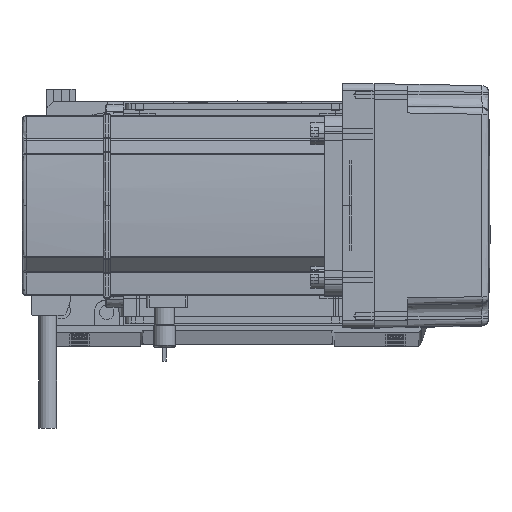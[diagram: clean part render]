
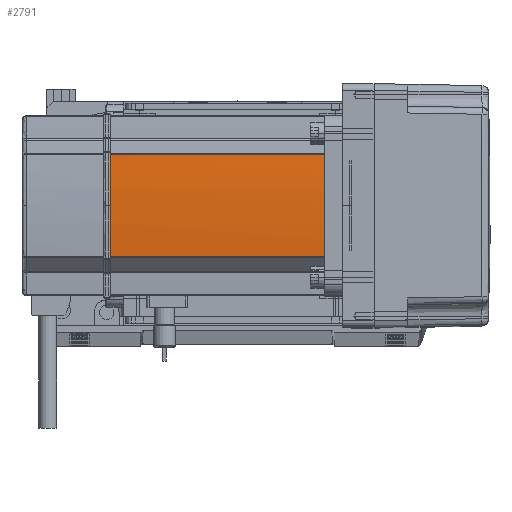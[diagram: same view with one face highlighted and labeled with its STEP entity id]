
A CAD part, top view. The second image highlights one B-rep face of the part: STEP entity #2791.
In plain terms, the highlighted cylindrical face has radius 270 mm (diameter 540 mm), a partial arc.
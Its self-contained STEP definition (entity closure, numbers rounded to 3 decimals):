
#305 = CYLINDRICAL_SURFACE ( 'NONE', #14298, 270. ) ;
#1179 = EDGE_CURVE ( 'NONE', #19028, #32269, #24031, .T. ) ;
#1616 = CARTESIAN_POINT ( 'NONE',  ( -39.042, -22.724, 134. ) ) ;
#2791 = ADVANCED_FACE ( 'NONE', ( #5198 ), #305, .T. ) ;
#3895 = CARTESIAN_POINT ( 'NONE',  ( -39.042, 22.724, 39. ) ) ;
#4646 = ORIENTED_EDGE ( 'NONE', *, *, #8878, .T. ) ;
#5198 = FACE_OUTER_BOUND ( 'NONE', #16419, .T. ) ;
#6934 = VECTOR ( 'NONE', #49134, 1000. ) ;
#8326 = CARTESIAN_POINT ( 'NONE',  ( 230., 0., 39. ) ) ;
#8878 = EDGE_CURVE ( 'NONE', #32269, #55584, #23179, .T. ) ;
#9248 = DIRECTION ( 'NONE',  ( 0., 0., 1. ) ) ;
#13027 = CARTESIAN_POINT ( 'NONE',  ( -39.042, 22.724, 134. ) ) ;
#13540 = DIRECTION ( 'NONE',  ( 0., 0., -1. ) ) ;
#14298 = AXIS2_PLACEMENT_3D ( 'NONE', #36498, #42210, #16007 ) ;
#16007 = DIRECTION ( 'NONE',  ( 1., 0., 0. ) ) ;
#16419 = EDGE_LOOP ( 'NONE', ( #42296, #33128, #4646, #38570, #35472 ) ) ;
#18371 = CIRCLE ( 'NONE', #34306, 270. ) ;
#19028 = VERTEX_POINT ( 'NONE', #42876 ) ;
#19083 = LINE ( 'NONE', #35676, #58268 ) ;
#19617 = AXIS2_PLACEMENT_3D ( 'NONE', #8326, #13540, #54768 ) ;
#23179 = LINE ( 'NONE', #38678, #6934 ) ;
#24031 = CIRCLE ( 'NONE', #56096, 270. ) ;
#26990 = CARTESIAN_POINT ( 'NONE',  ( 230., 0., 134. ) ) ;
#27799 = CARTESIAN_POINT ( 'NONE',  ( -39.042, -22.724, 39. ) ) ;
#28854 = DIRECTION ( 'NONE',  ( 0., 0., -1. ) ) ;
#32269 = VERTEX_POINT ( 'NONE', #13027 ) ;
#33128 = ORIENTED_EDGE ( 'NONE', *, *, #1179, .T. ) ;
#34306 = AXIS2_PLACEMENT_3D ( 'NONE', #26990, #57551, #62993 ) ;
#35472 = ORIENTED_EDGE ( 'NONE', *, *, #36134, .T. ) ;
#35676 = CARTESIAN_POINT ( 'NONE',  ( -39.042, -22.724, 0. ) ) ;
#36134 = EDGE_CURVE ( 'NONE', #53237, #57742, #19083, .T. ) ;
#36498 = CARTESIAN_POINT ( 'NONE',  ( 230., 0., 0. ) ) ;
#37391 = CIRCLE ( 'NONE', #19617, 270. ) ;
#38570 = ORIENTED_EDGE ( 'NONE', *, *, #51872, .F. ) ;
#38678 = CARTESIAN_POINT ( 'NONE',  ( -39.042, 22.724, 0. ) ) ;
#42210 = DIRECTION ( 'NONE',  ( 0., 0., 1. ) ) ;
#42296 = ORIENTED_EDGE ( 'NONE', *, *, #59562, .T. ) ;
#42876 = CARTESIAN_POINT ( 'NONE',  ( -40., 0., 134. ) ) ;
#44604 = DIRECTION ( 'NONE',  ( 1., 0., 0. ) ) ;
#49134 = DIRECTION ( 'NONE',  ( 0., 0., -1. ) ) ;
#51872 = EDGE_CURVE ( 'NONE', #53237, #55584, #37391, .T. ) ;
#53237 = VERTEX_POINT ( 'NONE', #27799 ) ;
#54768 = DIRECTION ( 'NONE',  ( 1., 0., 0. ) ) ;
#55584 = VERTEX_POINT ( 'NONE', #3895 ) ;
#56096 = AXIS2_PLACEMENT_3D ( 'NONE', #60550, #28854, #44604 ) ;
#57551 = DIRECTION ( 'NONE',  ( 0., 0., -1. ) ) ;
#57742 = VERTEX_POINT ( 'NONE', #1616 ) ;
#58268 = VECTOR ( 'NONE', #9248, 1000. ) ;
#59562 = EDGE_CURVE ( 'NONE', #57742, #19028, #18371, .T. ) ;
#60550 = CARTESIAN_POINT ( 'NONE',  ( 230., 0., 134. ) ) ;
#62993 = DIRECTION ( 'NONE',  ( 1., 0., 0. ) ) ;
